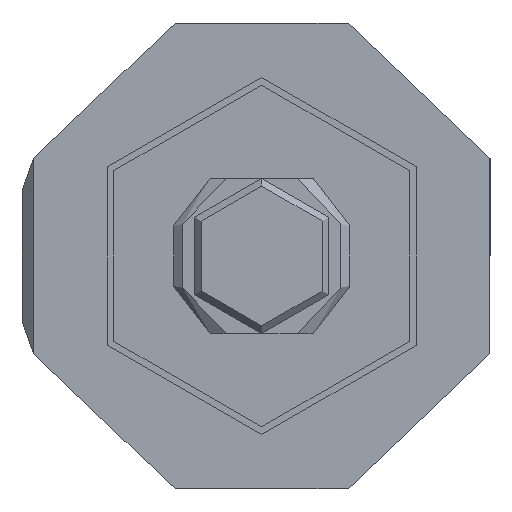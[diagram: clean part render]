
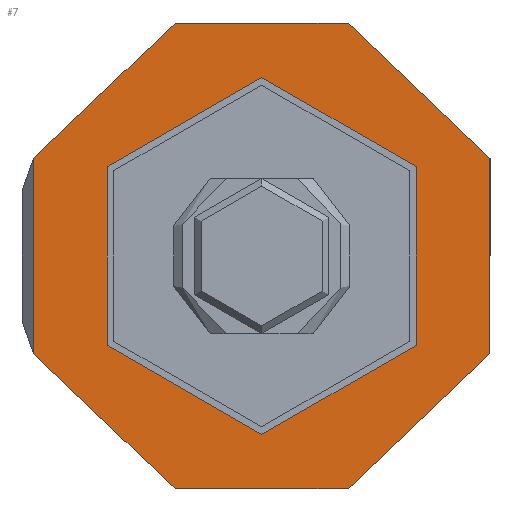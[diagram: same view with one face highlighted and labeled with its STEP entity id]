
A CAD part, left-side view. The second image highlights one B-rep face of the part: STEP entity #7.
In plain terms, the highlighted planar face has unit normal (-1, 0, 0).
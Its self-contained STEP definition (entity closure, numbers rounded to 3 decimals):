
#7 = ADVANCED_FACE ( 'NONE', ( #1580, #1170 ), #530, .F. ) ;
#34 = EDGE_LOOP ( 'NONE', ( #1204, #282 ) ) ;
#50 = CARTESIAN_POINT ( 'NONE',  ( 42., 11.874, 15. ) ) ;
#52 = DIRECTION ( 'NONE',  ( 0., -1., 0. ) ) ;
#66 = AXIS2_PLACEMENT_3D ( 'NONE', #297, #487, #270 ) ;
#67 = EDGE_CURVE ( 'NONE', #1085, #1414, #1669, .T. ) ;
#72 = ORIENTED_EDGE ( 'NONE', *, *, #1490, .T. ) ;
#90 = CARTESIAN_POINT ( 'NONE',  ( 42., 5.568, 15. ) ) ;
#149 = CARTESIAN_POINT ( 'NONE',  ( 42., 0., 0. ) ) ;
#155 = DIRECTION ( 'NONE',  ( 0., 0., -1. ) ) ;
#199 = DIRECTION ( 'NONE',  ( -1., 0., 0. ) ) ;
#228 = AXIS2_PLACEMENT_3D ( 'NONE', #883, #1245, #1308 ) ;
#270 = DIRECTION ( 'NONE',  ( 0., 0., 1. ) ) ;
#282 = ORIENTED_EDGE ( 'NONE', *, *, #67, .F. ) ;
#297 = CARTESIAN_POINT ( 'NONE',  ( 42., 0., 0. ) ) ;
#366 = DIRECTION ( 'NONE',  ( 0., 0., 1. ) ) ;
#373 = EDGE_CURVE ( 'NONE', #1326, #872, #776, .T. ) ;
#374 = AXIS2_PLACEMENT_3D ( 'NONE', #1070, #564, #723 ) ;
#386 = VECTOR ( 'NONE', #1499, 1000. ) ;
#392 = EDGE_CURVE ( 'NONE', #1414, #1085, #1133, .T. ) ;
#409 = CARTESIAN_POINT ( 'NONE',  ( 42., 5.568, -15. ) ) ;
#487 = DIRECTION ( 'NONE',  ( -1., 0., 0. ) ) ;
#530 = PLANE ( 'NONE',  #862 ) ;
#564 = DIRECTION ( 'NONE',  ( -1., 0., 0. ) ) ;
#583 = EDGE_LOOP ( 'NONE', ( #72, #1496, #1467, #1350 ) ) ;
#589 = EDGE_CURVE ( 'NONE', #1525, #761, #1056, .T. ) ;
#607 = CARTESIAN_POINT ( 'NONE',  ( 42., 11.874, -15. ) ) ;
#685 = CARTESIAN_POINT ( 'NONE',  ( 42., 0., -16. ) ) ;
#716 = EDGE_CURVE ( 'NONE', #1525, #872, #836, .T. ) ;
#723 = DIRECTION ( 'NONE',  ( 0., 0., 1. ) ) ;
#761 = VERTEX_POINT ( 'NONE', #409 ) ;
#776 = LINE ( 'NONE', #50, #1362 ) ;
#834 = AXIS2_PLACEMENT_3D ( 'NONE', #149, #199, #366 ) ;
#836 = CIRCLE ( 'NONE', #66, 16. ) ;
#862 = AXIS2_PLACEMENT_3D ( 'NONE', #685, #1502, #155 ) ;
#872 = VERTEX_POINT ( 'NONE', #1301 ) ;
#883 = CARTESIAN_POINT ( 'NONE',  ( 42., 0., 0. ) ) ;
#1056 = LINE ( 'NONE', #607, #386 ) ;
#1070 = CARTESIAN_POINT ( 'NONE',  ( 42., 0., 0. ) ) ;
#1071 = CARTESIAN_POINT ( 'NONE',  ( 42., 0., -11.5 ) ) ;
#1075 = CIRCLE ( 'NONE', #834, 16. ) ;
#1080 = CARTESIAN_POINT ( 'NONE',  ( 42., -5.568, -15. ) ) ;
#1085 = VERTEX_POINT ( 'NONE', #1071 ) ;
#1133 = CIRCLE ( 'NONE', #374, 11.5 ) ;
#1170 = FACE_OUTER_BOUND ( 'NONE', #583, .T. ) ;
#1204 = ORIENTED_EDGE ( 'NONE', *, *, #392, .F. ) ;
#1245 = DIRECTION ( 'NONE',  ( -1., 0., 0. ) ) ;
#1301 = CARTESIAN_POINT ( 'NONE',  ( 42., -5.568, 15. ) ) ;
#1308 = DIRECTION ( 'NONE',  ( 0., 0., 1. ) ) ;
#1326 = VERTEX_POINT ( 'NONE', #90 ) ;
#1350 = ORIENTED_EDGE ( 'NONE', *, *, #373, .F. ) ;
#1362 = VECTOR ( 'NONE', #52, 1000. ) ;
#1414 = VERTEX_POINT ( 'NONE', #1608 ) ;
#1467 = ORIENTED_EDGE ( 'NONE', *, *, #716, .T. ) ;
#1490 = EDGE_CURVE ( 'NONE', #1326, #761, #1075, .T. ) ;
#1496 = ORIENTED_EDGE ( 'NONE', *, *, #589, .F. ) ;
#1499 = DIRECTION ( 'NONE',  ( 0., 1., 0. ) ) ;
#1502 = DIRECTION ( 'NONE',  ( 1., 0., 0. ) ) ;
#1525 = VERTEX_POINT ( 'NONE', #1080 ) ;
#1580 = FACE_BOUND ( 'NONE', #34, .T. ) ;
#1608 = CARTESIAN_POINT ( 'NONE',  ( 42., 0., 11.5 ) ) ;
#1669 = CIRCLE ( 'NONE', #228, 11.5 ) ;
